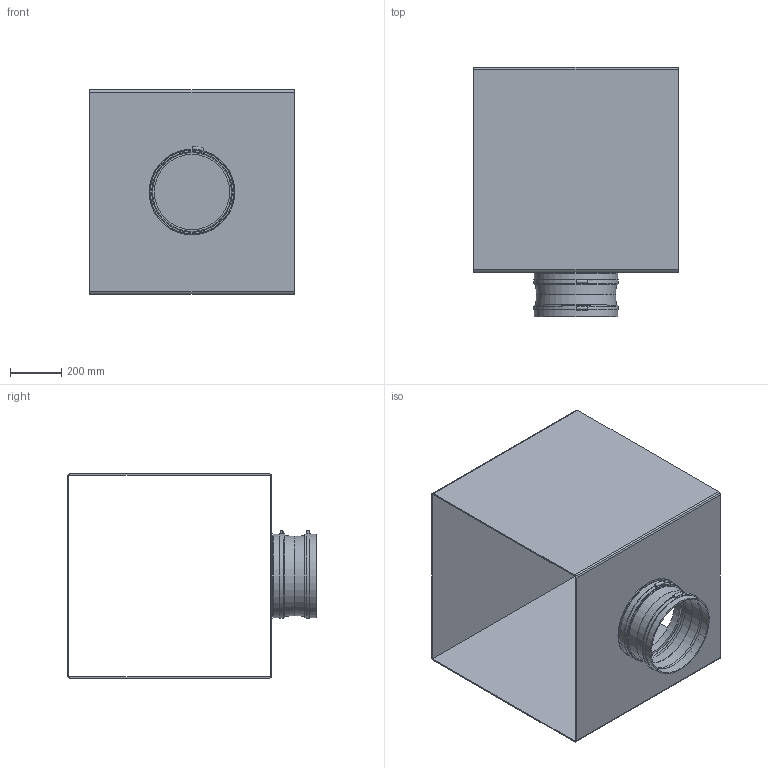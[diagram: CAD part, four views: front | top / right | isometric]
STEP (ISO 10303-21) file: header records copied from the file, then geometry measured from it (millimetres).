
FILE_DESCRIPTION(/* description */ (''),/* implementation_level */ '2;1');
FILE_NAME(/* name */ 'Z:\Output\GBD 560_4_4_DoubleRadial-05521-004.stp',/* time_stamp */ '2017-05-09T00:04:03+02:00',/* author */ ('jayeshpanchal'),/* organization */ (''),/* preprocessor_version */ 'ST-DEVELOPER v16.5',/* originating_system */ 'Autodesk Inventor 2017',/* authorisation */ '');
FILE_SCHEMA (('AUTOMOTIVE_DESIGN { 1 0 10303 214 3 1 1 }'));
Length unit declared in the file: millimetre
Products named in the file (1): GB-3
Bounding box: 800 x 975 x 800 mm (x, y, z)
Volume: 13208852.3 mm3; surface area: 5449107.7 mm2
Topology: 4 solids, 4 shells, 59 faces, 118 edges, 75 vertices
Faces by surface type: plane 30, cylinder 23, cone 4, torus 2
Full cylindrical faces by diameter (mm): 295 x1, 315 x1, 316 x4, 320 x1, 325 x1, 326 x4, 332 x2, 335 x1
Entity records: 1479 total; most frequent: DIRECTION 272, CARTESIAN_POINT 232, ORIENTED_EDGE 200, AXIS2_PLACEMENT_3D 114, EDGE_CURVE 98, EDGE_LOOP 96, VERTEX_POINT 74, FACE_OUTER_BOUND 59
